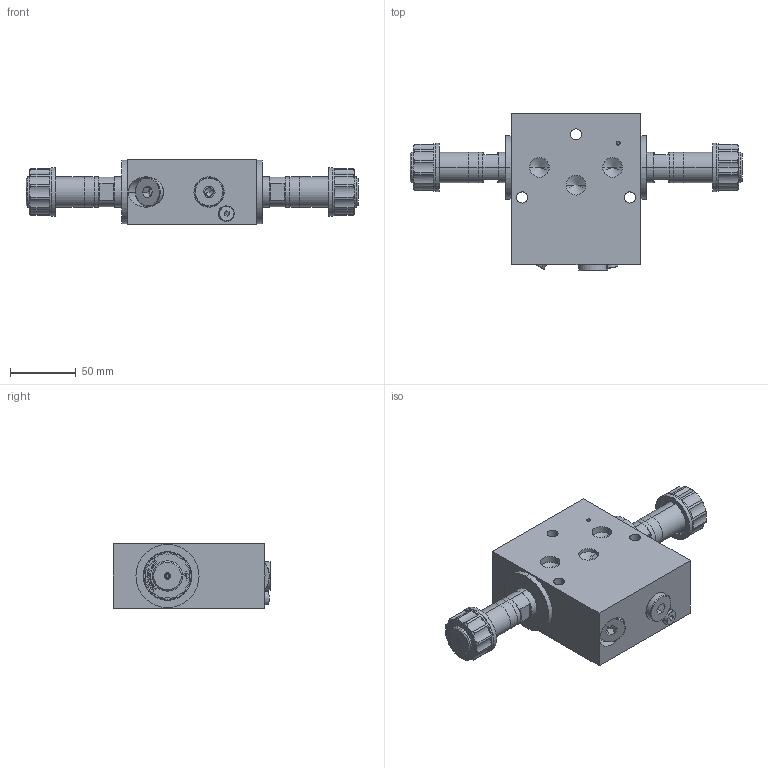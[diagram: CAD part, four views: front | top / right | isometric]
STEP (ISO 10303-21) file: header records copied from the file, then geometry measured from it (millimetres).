
FILE_DESCRIPTION (( 'STEP AP214' ), '1' );
FILE_NAME ('Control Section CMVA-MC06-A actuation at A and B.STEP', '2025-11-17T12:48:35', ( '' ), ( '' ), 'SwSTEP 2.0', 'SolidWorks 2024', '' );
FILE_SCHEMA (( 'AUTOMOTIVE_DESIGN' ));
Length unit declared in the file: millimetre
Products named in the file (1): Control Section CMVA-MC06-A actuation at A and B
Bounding box: 252.5 x 119.7 x 49 mm (x, y, z)
Volume: 571309.8 mm3; surface area: 113366.9 mm2
Topology: 29 solids, 29 shells, 1866 faces, 4554 edges, 2817 vertices
Faces by surface type: plane 1012, cylinder 376, cone 279, bspline 109, torus 90
Entity records: 58626 total; most frequent: CARTESIAN_POINT 14545, DIRECTION 9173, ORIENTED_EDGE 9008, EDGE_CURVE 4504, AXIS2_PLACEMENT_3D 3209, VERTEX_POINT 2817, LINE 2755, VECTOR 2755
